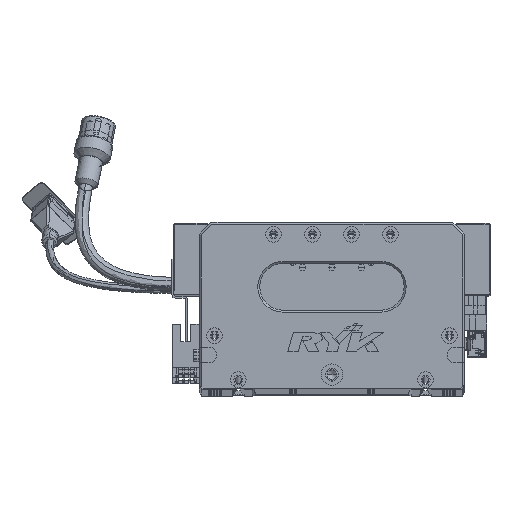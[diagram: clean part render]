
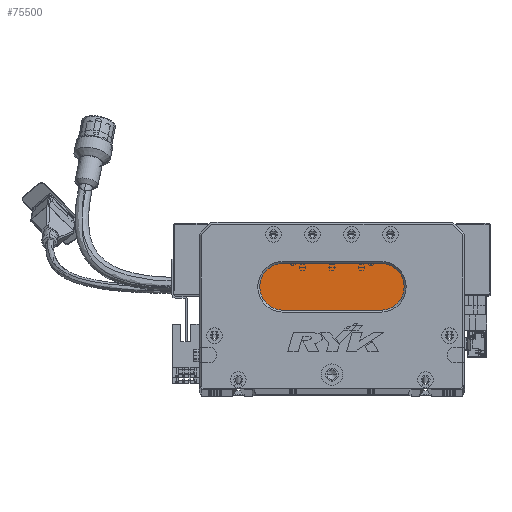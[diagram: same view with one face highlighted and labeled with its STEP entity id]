
A CAD part, top view. The second image highlights one B-rep face of the part: STEP entity #75500.
In plain terms, the highlighted planar face has unit normal (0, 0, 1) as drawn and (0, 0, -1) by its records, which use the part's own axes.
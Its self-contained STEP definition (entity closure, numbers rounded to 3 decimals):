
#2579 = CARTESIAN_POINT ( 'NONE',  ( 93., 40., 13. ) ) ;
#3623 = VERTEX_POINT ( 'NONE', #26783 ) ;
#6981 = EDGE_CURVE ( 'NONE', #59329, #52804, #74792, .T. ) ;
#13374 = VERTEX_POINT ( 'NONE', #2579 ) ;
#17413 = EDGE_LOOP ( 'NONE', ( #54305, #77344, #29149, #57021, #56403 ) ) ;
#17796 = CARTESIAN_POINT ( 'NONE',  ( 93., 64., 13. ) ) ;
#18292 = EDGE_CURVE ( 'NONE', #13374, #59329, #107261, .T. ) ;
#18967 = VERTEX_POINT ( 'NONE', #100976 ) ;
#19233 = DIRECTION ( 'NONE',  ( 0., 0., -1. ) ) ;
#23771 = DIRECTION ( 'NONE',  ( -1., 0., 0. ) ) ;
#23816 = VECTOR ( 'NONE', #82039, 1000. ) ;
#26691 = LINE ( 'NONE', #17796, #23816 ) ;
#26783 = CARTESIAN_POINT ( 'NONE',  ( 93., 64., 13. ) ) ;
#26878 = VECTOR ( 'NONE', #78173, 1000. ) ;
#28526 = PLANE ( 'NONE',  #73160 ) ;
#29149 = ORIENTED_EDGE ( 'NONE', *, *, #6981, .T. ) ;
#45375 = CIRCLE ( 'NONE', #55070, 12. ) ;
#46236 = CARTESIAN_POINT ( 'NONE',  ( 93., 52., 13. ) ) ;
#51027 = CARTESIAN_POINT ( 'NONE',  ( 43., 40., 13. ) ) ;
#52608 = CARTESIAN_POINT ( 'NONE',  ( 31., 52., 13. ) ) ;
#52804 = VERTEX_POINT ( 'NONE', #52608 ) ;
#53866 = DIRECTION ( 'NONE',  ( -1., 0., 0. ) ) ;
#54305 = ORIENTED_EDGE ( 'NONE', *, *, #110221, .T. ) ;
#55070 = AXIS2_PLACEMENT_3D ( 'NONE', #61346, #72126, #80170 ) ;
#56403 = ORIENTED_EDGE ( 'NONE', *, *, #88718, .T. ) ;
#56721 = FACE_OUTER_BOUND ( 'NONE', #17413, .T. ) ;
#57021 = ORIENTED_EDGE ( 'NONE', *, *, #78974, .T. ) ;
#59329 = VERTEX_POINT ( 'NONE', #51027 ) ;
#60344 = CARTESIAN_POINT ( 'NONE',  ( 43., 52., 13. ) ) ;
#61346 = CARTESIAN_POINT ( 'NONE',  ( 93., 52., 13. ) ) ;
#71503 = DIRECTION ( 'NONE',  ( 0., 0., -1. ) ) ;
#72126 = DIRECTION ( 'NONE',  ( 0., 0., -1. ) ) ;
#73160 = AXIS2_PLACEMENT_3D ( 'NONE', #46236, #19233, #92694 ) ;
#74792 = CIRCLE ( 'NONE', #117669, 12. ) ;
#75500 = ADVANCED_FACE ( 'NONE', ( #56721 ), #28526, .T. ) ;
#77344 = ORIENTED_EDGE ( 'NONE', *, *, #18292, .T. ) ;
#77765 = CIRCLE ( 'NONE', #114992, 12. ) ;
#78173 = DIRECTION ( 'NONE',  ( -1., 0., 0. ) ) ;
#78974 = EDGE_CURVE ( 'NONE', #52804, #18967, #77765, .T. ) ;
#80170 = DIRECTION ( 'NONE',  ( -1., 0., 0. ) ) ;
#82039 = DIRECTION ( 'NONE',  ( 1., 0., 0. ) ) ;
#87193 = DIRECTION ( 'NONE',  ( 0., 0., -1. ) ) ;
#88718 = EDGE_CURVE ( 'NONE', #18967, #3623, #26691, .T. ) ;
#92694 = DIRECTION ( 'NONE',  ( -1., 0., 0. ) ) ;
#100976 = CARTESIAN_POINT ( 'NONE',  ( 43., 64., 13. ) ) ;
#105892 = CARTESIAN_POINT ( 'NONE',  ( 93., 40., 13. ) ) ;
#107261 = LINE ( 'NONE', #105892, #26878 ) ;
#110221 = EDGE_CURVE ( 'NONE', #3623, #13374, #45375, .T. ) ;
#114992 = AXIS2_PLACEMENT_3D ( 'NONE', #60344, #87193, #23771 ) ;
#117271 = CARTESIAN_POINT ( 'NONE',  ( 43., 52., 13. ) ) ;
#117669 = AXIS2_PLACEMENT_3D ( 'NONE', #117271, #71503, #53866 ) ;
